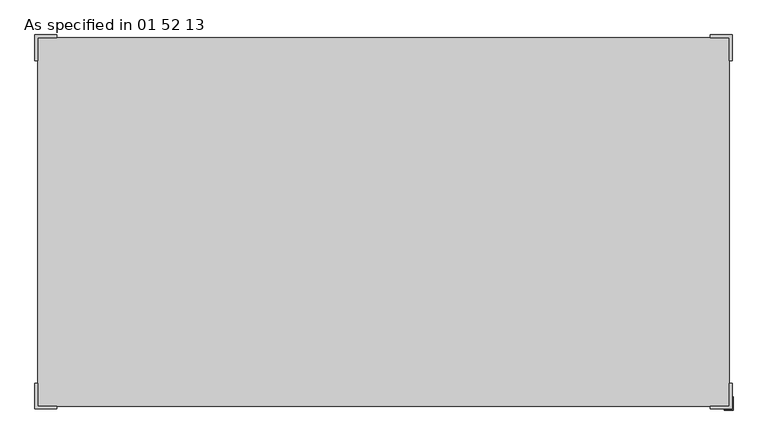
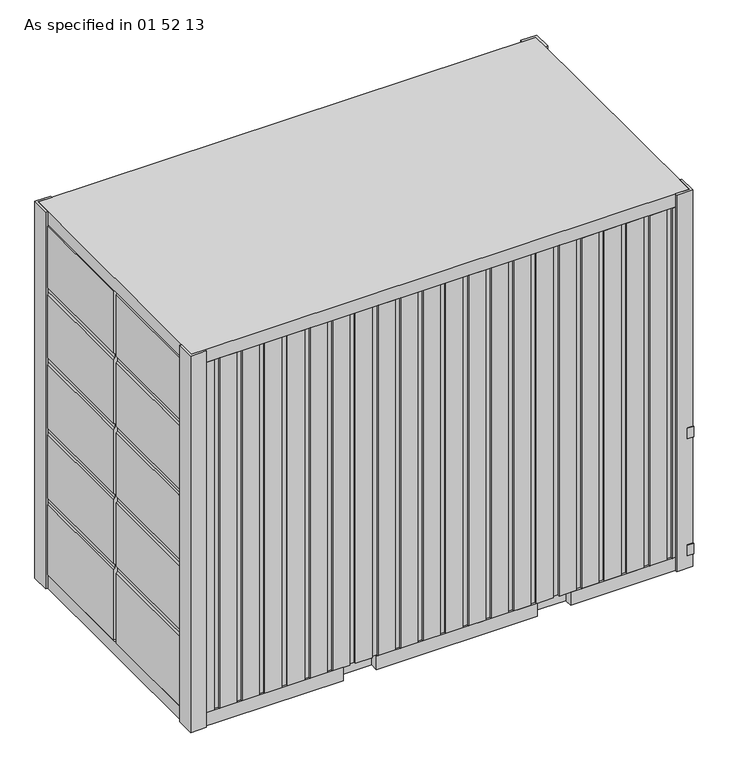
"""IFC4 building model written with IfcOpenShell, lengths in millimetres: proxy geometry, Conteneur de rangement : As specified in 01 52 13."""

from ifc_helpers import new_model, si_unit, frame, origin, origin_with_axes, place, context, project, spatial, polyline, outline, extrude, source, transform, mapped, element, save


def as_specified_in_01_52_13_7078bd20(model_context):
    return source(origin(), model_context, "Body", "SweptSolid", [
        extrude(outline(polyline([(23285.3392185, 9634.8858114), (23285.3392185, 9641.2358114), (23336.1392185, 9641.2358114), (23336.1392185, 9723.7858114), (23342.4892185, 9723.7858114), (23342.4892185, 9634.8858114), (23285.3392185, 9634.8858114)])), frame((0.0, 0.0, 1261.5333333), z_axis=(0.0, 0.0, 1.0), x_axis=(1.0, 0.0, 0.0)), (0.0, 0.0, 1.0), 101.6),
        extrude(outline(polyline([(23285.3392185, 9634.8858114), (23285.3392185, 9641.2358114), (23336.1392185, 9641.2358114), (23336.1392185, 9723.7858114), (23342.4892185, 9723.7858114), (23342.4892185, 9634.8858114), (23285.3392185, 9634.8858114)])), frame((0.0, 0.0, 127.0), z_axis=(0.0, 0.0, 1.0), x_axis=(1.0, 0.0, 0.0)), (0.0, 0.0, 1.0), 101.6),
        extrude(outline(polyline([(3530.6, 18783.1892185), (3530.6, 18764.1392185), (3511.55, 18745.0892185), (2914.9207684, 18745.0892185), (2901.4503842, 18758.5596027), (2863.3503842, 18758.5596027), (2849.88, 18745.0892185), (2234.2007684, 18745.0892185), (2220.7303842, 18758.5596027), (2182.6303842, 18758.5596027), (2169.16, 18745.0892185), (1553.4807684, 18745.0892185), (1540.0103842, 18758.5596027), (1501.9103842, 18758.5596027), (1488.44, 18745.0892185), (872.7607684, 18745.0892185), (859.2903842, 18758.5596027), (821.1903842, 18758.5596027), (807.72, 18745.0892185), (127.0, 18745.0892185), (127.0, 18783.1892185), (3530.6, 18783.1892185)])), frame((0.0, 10904.8858114, 0.0), z_axis=(0.0, 1.0, 0.0), x_axis=(0.0, 0.0, 1.0)), (0.0, 0.0, 1.0), 1193.8),
        extrude(outline(polyline([(3530.6, 18783.1892185), (3530.6, 18764.1392185), (3511.55, 18745.0892185), (2914.9207684, 18745.0892185), (2901.4503842, 18758.5596027), (2863.3503842, 18758.5596027), (2849.88, 18745.0892185), (2234.2007684, 18745.0892185), (2220.7303842, 18758.5596027), (2182.6303842, 18758.5596027), (2169.16, 18745.0892185), (1553.4807684, 18745.0892185), (1540.0103842, 18758.5596027), (1501.9103842, 18758.5596027), (1488.44, 18745.0892185), (872.7607684, 18745.0892185), (859.2903842, 18758.5596027), (821.1903842, 18758.5596027), (807.72, 18745.0892185), (127.0, 18745.0892185), (127.0, 18783.1892185), (3530.6, 18783.1892185)])), frame((0.0, 9660.2858114, 0.0), z_axis=(0.0, 1.0, 0.0), x_axis=(0.0, 0.0, 1.0)), (0.0, 0.0, 1.0), 1193.8),
        extrude(outline(polyline([(3530.6, 23278.9892185), (127.0, 23278.9892185), (127.0, 23317.0892185), (807.72, 23317.0892185), (821.1903842, 23303.6188344), (859.2903842, 23303.6188344), (872.7607684, 23317.0892185), (1488.44, 23317.0892185), (1501.9103842, 23303.6188344), (1540.0103842, 23303.6188344), (1553.4807684, 23317.0892185), (2169.16, 23317.0892185), (2182.6303842, 23303.6188344), (2220.7303842, 23303.6188344), (2234.2007684, 23317.0892185), (2849.88, 23317.0892185), (2863.3503842, 23303.6188344), (2901.4503842, 23303.6188344), (2914.9207684, 23317.0892185), (3511.55, 23317.0892185), (3530.6, 23298.0392185), (3530.6, 23278.9892185)])), frame((0.0, 10904.8858114, 0.0), z_axis=(0.0, 1.0, 0.0), x_axis=(0.0, 0.0, 1.0)), (0.0, 0.0, 1.0), 1193.8),
        extrude(outline(polyline([(3530.6, 23278.9892185), (127.0, 23278.9892185), (127.0, 23317.0892185), (807.72, 23317.0892185), (821.1903842, 23303.6188344), (859.2903842, 23303.6188344), (872.7607684, 23317.0892185), (1488.44, 23317.0892185), (1501.9103842, 23303.6188344), (1540.0103842, 23303.6188344), (1553.4807684, 23317.0892185), (2169.16, 23317.0892185), (2182.6303842, 23303.6188344), (2220.7303842, 23303.6188344), (2234.2007684, 23317.0892185), (2849.88, 23317.0892185), (2863.3503842, 23303.6188344), (2901.4503842, 23303.6188344), (2914.9207684, 23317.0892185), (3511.55, 23317.0892185), (3530.6, 23298.0392185), (3530.6, 23278.9892185)])), frame((0.0, 9660.2858114, 0.0), z_axis=(0.0, 1.0, 0.0), x_axis=(0.0, 0.0, 1.0)), (0.0, 0.0, 1.0), 1193.8),
        extrude(outline(polyline([(18726.0392185, 9812.6858114), (18745.0892185, 9812.6858114), (18745.0892185, 9660.2858114), (18872.0892185, 9660.2858114), (18872.0892185, 9641.2358114), (18726.0392185, 9641.2358114), (18726.0392185, 9812.6858114)])), origin_with_axes(), (0.0, 0.0, 1.0), 3657.6),
        extrude(outline(polyline([(18726.0392185, 11946.2858114), (18726.0392185, 12117.7358114), (18872.0892185, 12117.7358114), (18872.0892185, 12098.6858114), (18745.0892185, 12098.6858114), (18745.0892185, 11946.2858114), (18726.0392185, 11946.2858114)])), origin_with_axes(), (0.0, 0.0, 1.0), 3657.6),
        extrude(outline(polyline([(23336.1392185, 9812.6858114), (23336.1392185, 9641.2358114), (23190.0892185, 9641.2358114), (23190.0892185, 9660.2858114), (23317.0892185, 9660.2858114), (23317.0892185, 9812.6858114), (23336.1392185, 9812.6858114)])), origin_with_axes(), (0.0, 0.0, 1.0), 3657.6),
        extrude(outline(polyline([(23336.1392185, 11946.2858114), (23317.0892185, 11946.2858114), (23317.0892185, 12098.6858114), (23190.0892185, 12098.6858114), (23190.0892185, 12117.7358114), (23336.1392185, 12117.7358114), (23336.1392185, 11946.2858114)])), origin_with_axes(), (0.0, 0.0, 1.0), 3657.6),
        extrude(outline(polyline([(23317.0892185, 12098.6858114), (23317.0892185, 9660.2858114), (18745.0892185, 9660.2858114), (18745.0892185, 12098.6858114), (23317.0892185, 12098.6858114)])), frame((0.0, 0.0, 3530.6), z_axis=(0.0, 0.0, 1.0), x_axis=(1.0, 0.0, 0.0)), (0.0, 0.0, 1.0), 127.0),
        extrude(outline(polyline([(20139.7801276, 12098.6858114), (20139.7801276, 12022.4858114), (20444.5801276, 12022.4858114), (20444.5801276, 12098.6858114), (21922.3983095, 12098.6858114), (21922.3983095, 12022.4858114), (22227.1983095, 12022.4858114), (22227.1983095, 12098.6858114), (23317.0892185, 12098.6858114), (23317.0892185, 9660.2858114), (22227.1983095, 9660.2858114), (22227.1983095, 9736.4858114), (21922.3983095, 9736.4858114), (21922.3983095, 9660.2858114), (20444.5801276, 9660.2858114), (20444.5801276, 9736.4858114), (20139.7801276, 9736.4858114), (20139.7801276, 9660.2858114), (18745.0892185, 9660.2858114), (18745.0892185, 12098.6858114), (20139.7801276, 12098.6858114)])), origin_with_axes(), (0.0, 0.0, 1.0), 127.0),
        extrude(outline(polyline([(18952.9074004, 12098.6858114), (18952.9074004, 12079.6358114), (19003.7074004, 12079.6358114), (19003.7074004, 12098.6858114), (19160.7255822, 12098.6858114), (19160.7255822, 12079.6358114), (19211.5255822, 12079.6358114), (19211.5255822, 12098.6858114), (19368.543764, 12098.6858114), (19368.543764, 12079.6358114), (19419.343764, 12079.6358114), (19419.343764, 12098.6858114), (19576.3619458, 12098.6858114), (19576.3619458, 12079.6358114), (19627.1619458, 12079.6358114), (19627.1619458, 12098.6858114), (19784.1801276, 12098.6858114), (19784.1801276, 12079.6358114), (19834.9801276, 12079.6358114), (19834.9801276, 12098.6858114), (19991.9983095, 12098.6858114), (19991.9983095, 12079.6358114), (20042.7983095, 12079.6358114), (20042.7983095, 12098.6858114), (20199.8164913, 12098.6858114), (20199.8164913, 12079.6358114), (20250.6164913, 12079.6358114), (20250.6164913, 12098.6858114), (20407.6346731, 12098.6858114), (20407.6346731, 12079.6358114), (20458.4346731, 12079.6358114), (20458.4346731, 12098.6858114), (20615.4528549, 12098.6858114), (20615.4528549, 12079.6358114), (20666.2528549, 12079.6358114), (20666.2528549, 12098.6858114), (20823.2710367, 12098.6858114), (20823.2710367, 12079.6358114), (20874.0710367, 12079.6358114), (20874.0710367, 12098.6858114), (21031.0892185, 12098.6858114), (21031.0892185, 12079.6358114), (21081.8892185, 12079.6358114), (21081.8892185, 12098.6858114), (21238.9074004, 12098.6858114), (21238.9074004, 12079.6358114), (21289.7074004, 12079.6358114), (21289.7074004, 12098.6858114), (21446.7255822, 12098.6858114), (21446.7255822, 12079.6358114), (21497.5255822, 12079.6358114), (21497.5255822, 12098.6858114), (21654.543764, 12098.6858114), (21654.543764, 12079.6358114), (21705.343764, 12079.6358114), (21705.343764, 12098.6858114), (21862.3619458, 12098.6858114), (21862.3619458, 12079.6358114), (21913.1619458, 12079.6358114), (21913.1619458, 12098.6858114), (22070.1801276, 12098.6858114), (22070.1801276, 12079.6358114), (22120.9801276, 12079.6358114), (22120.9801276, 12098.6858114), (22277.9983095, 12098.6858114), (22277.9983095, 12079.6358114), (22328.7983095, 12079.6358114), (22328.7983095, 12098.6858114), (22485.8164913, 12098.6858114), (22485.8164913, 12079.6358114), (22536.6164913, 12079.6358114), (22536.6164913, 12098.6858114), (22693.6346731, 12098.6858114), (22693.6346731, 12079.6358114), (22744.4346731, 12079.6358114), (22744.4346731, 12098.6858114), (22901.4528549, 12098.6858114), (22901.4528549, 12079.6358114), (22952.2528549, 12079.6358114), (22952.2528549, 12098.6858114), (23109.2710367, 12098.6858114), (23109.2710367, 12079.6358114), (23160.0710367, 12079.6358114), (23160.0710367, 12098.6858114), (23317.0892185, 12098.6858114), (23317.0892185, 11971.6858114), (23278.9892185, 11971.6858114), (23278.9892185, 9812.6858114), (23317.0892185, 9812.6858114), (23317.0892185, 9660.2858114), (23160.0710367, 9660.2858114), (23160.0710367, 9679.3358114), (23109.2710367, 9679.3358114), (23109.2710367, 9660.2858114), (22952.2528549, 9660.2858114), (22952.2528549, 9679.3358114), (22901.4528549, 9679.3358114), (22901.4528549, 9660.2858114), (22744.4346731, 9660.2858114), (22744.4346731, 9679.3358114), (22693.6346731, 9679.3358114), (22693.6346731, 9660.2858114), (22536.6164913, 9660.2858114), (22536.6164913, 9679.3358114), (22485.8164913, 9679.3358114), (22485.8164913, 9660.2858114), (22328.7983095, 9660.2858114), (22328.7983095, 9679.3358114), (22277.9983095, 9679.3358114), (22277.9983095, 9660.2858114), (22120.9801276, 9660.2858114), (22120.9801276, 9679.3358114), (22070.1801276, 9679.3358114), (22070.1801276, 9660.2858114), (21913.1619458, 9660.2858114), (21913.1619458, 9679.3358114), (21862.3619458, 9679.3358114), (21862.3619458, 9660.2858114), (21705.343764, 9660.2858114), (21705.343764, 9679.3358114), (21654.543764, 9679.3358114), (21654.543764, 9660.2858114), (21497.5255822, 9660.2858114), (21497.5255822, 9679.3358114), (21446.7255822, 9679.3358114), (21446.7255822, 9660.2858114), (21289.7074004, 9660.2858114), (21289.7074004, 9679.3358114), (21238.9074004, 9679.3358114), (21238.9074004, 9660.2858114), (21081.8892185, 9660.2858114), (21081.8892185, 9679.3358114), (21031.0892185, 9679.3358114), (21031.0892185, 9660.2858114), (20874.0710367, 9660.2858114), (20874.0710367, 9679.3358114), (20823.2710367, 9679.3358114), (20823.2710367, 9660.2858114), (20666.2528549, 9660.2858114), (20666.2528549, 9679.3358114), (20615.4528549, 9679.3358114), (20615.4528549, 9660.2858114), (20458.4346731, 9660.2858114), (20458.4346731, 9679.3358114), (20407.6346731, 9679.3358114), (20407.6346731, 9660.2858114), (20250.6164913, 9660.2858114), (20250.6164913, 9679.3358114), (20199.8164913, 9679.3358114), (20199.8164913, 9660.2858114), (20042.7983095, 9660.2858114), (20042.7983095, 9679.3358114), (19991.9983095, 9679.3358114), (19991.9983095, 9660.2858114), (19834.9801276, 9660.2858114), (19834.9801276, 9679.3358114), (19784.1801276, 9679.3358114), (19784.1801276, 9660.2858114), (19627.1619458, 9660.2858114), (19627.1619458, 9679.3358114), (19576.3619458, 9679.3358114), (19576.3619458, 9660.2858114), (19419.343764, 9660.2858114), (19419.343764, 9679.3358114), (19368.543764, 9679.3358114), (19368.543764, 9660.2858114), (19211.5255822, 9660.2858114), (19211.5255822, 9679.3358114), (19160.7255822, 9679.3358114), (19160.7255822, 9660.2858114), (19003.7074004, 9660.2858114), (19003.7074004, 9679.3358114), (18952.9074004, 9679.3358114), (18952.9074004, 9660.2858114), (18745.0892185, 9660.2858114), (18745.0892185, 9812.6858114), (18783.1892185, 9812.6858114), (18783.1892185, 11971.6858114), (18745.0892185, 11971.6858114), (18745.0892185, 12098.6858114), (18952.9074004, 12098.6858114)]), holes=[polyline([(23185.4710367, 12022.4858114), (18821.2892185, 12022.4858114), (18821.2892185, 9736.4858114), (23185.4710367, 9736.4858114), (23185.4710367, 12022.4858114)])]), frame((0.0, 0.0, 127.0), z_axis=(0.0, 0.0, 1.0), x_axis=(1.0, 0.0, 0.0)), (0.0, 0.0, 1.0), 3403.6),
    ])


if __name__ == "__main__":
    model = new_model("IFC4")
    model_context = context("Model", 3, world=origin())
    ifc_project = project(units=[si_unit("LENGTHUNIT", "METRE", prefix="MILLI")], contexts=[model_context])
    site = spatial("IfcSite", under=ifc_project)
    building = spatial("IfcBuilding", under=site)
    placement = place(None, origin())
    as_specified_in_01_52_13_shape = as_specified_in_01_52_13_7078bd20(model_context)
    element("IfcBuildingElementProxy", 1, Name="Conteneur de rangement : As specified in 01 52 13", ObjectType="Conteneur de rangement : As specified in 01 52 13", at=placement, inside=building, context=model_context, shape_type="MappedRepresentation", body=[
        mapped(as_specified_in_01_52_13_shape, transform((0.0, 0.0, 0.0), x_axis=(1.0, 0.0, 0.0), y_axis=(0.0, 1.0, 0.0), z_axis=(0.0, 0.0, 1.0))),
    ])
    save(model, "model.ifc")
